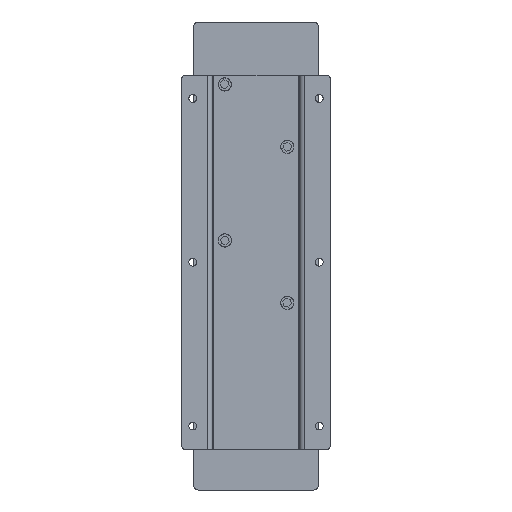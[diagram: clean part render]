
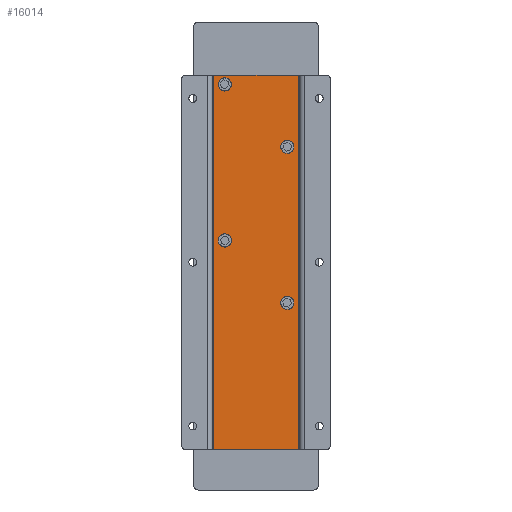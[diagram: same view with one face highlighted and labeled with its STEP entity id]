
A CAD part, left-side view. The second image highlights one B-rep face of the part: STEP entity #16014.
In plain terms, the highlighted planar face has unit normal (-1, 0, 0) as drawn and (0, 0, -1) by its records, which use the part's own axes.
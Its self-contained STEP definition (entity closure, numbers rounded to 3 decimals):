
#29 = CARTESIAN_POINT ( 'NONE',  ( 120., 27., -2. ) ) ;
#36 = ORIENTED_EDGE ( 'NONE', *, *, #26820, .T. ) ;
#107 = EDGE_CURVE ( 'NONE', #43931, #38310, #43694, .T. ) ;
#388 = DIRECTION ( 'NONE',  ( 1., 0., 0. ) ) ;
#463 = ORIENTED_EDGE ( 'NONE', *, *, #4341, .T. ) ;
#3179 = ORIENTED_EDGE ( 'NONE', *, *, #107, .F. ) ;
#3539 = DIRECTION ( 'NONE',  ( 1., 0., 0. ) ) ;
#3594 = CIRCLE ( 'NONE', #27992, 3.25 ) ;
#3679 = CARTESIAN_POINT ( 'NONE',  ( 22.75, -20., -2. ) ) ;
#3762 = DIRECTION ( 'NONE',  ( 0., 0., 1. ) ) ;
#4341 = EDGE_CURVE ( 'NONE', #43830, #41536, #41077, .T. ) ;
#4543 = ORIENTED_EDGE ( 'NONE', *, *, #12191, .F. ) ;
#4548 = CARTESIAN_POINT ( 'NONE',  ( 120., -27., -2. ) ) ;
#4644 = DIRECTION ( 'NONE',  ( -1., 0., 0. ) ) ;
#5745 = EDGE_LOOP ( 'NONE', ( #27785, #19962 ) ) ;
#5814 = VERTEX_POINT ( 'NONE', #3679 ) ;
#6073 = DIRECTION ( 'NONE',  ( 0., 0., 1. ) ) ;
#6528 = CARTESIAN_POINT ( 'NONE',  ( 26., -20., -2. ) ) ;
#6874 = ORIENTED_EDGE ( 'NONE', *, *, #19758, .T. ) ;
#7664 = CARTESIAN_POINT ( 'NONE',  ( -114., 20., -2. ) ) ;
#8265 = DIRECTION ( 'NONE',  ( 0., 0., 1. ) ) ;
#9116 = PLANE ( 'NONE',  #21159 ) ;
#10151 = EDGE_CURVE ( 'NONE', #23125, #32542, #11709, .T. ) ;
#10653 = CARTESIAN_POINT ( 'NONE',  ( -120., -27., -2. ) ) ;
#10688 = CARTESIAN_POINT ( 'NONE',  ( -117.25, 20., -2. ) ) ;
#11367 = ORIENTED_EDGE ( 'NONE', *, *, #10151, .T. ) ;
#11442 = DIRECTION ( 'NONE',  ( 1., 0., 0. ) ) ;
#11481 = DIRECTION ( 'NONE',  ( 0., 1., 0. ) ) ;
#11709 = CIRCLE ( 'NONE', #19819, 3.25 ) ;
#11711 = VERTEX_POINT ( 'NONE', #34325 ) ;
#12191 = EDGE_CURVE ( 'NONE', #16760, #13461, #44820, .T. ) ;
#12278 = EDGE_CURVE ( 'NONE', #38310, #16760, #16856, .T. ) ;
#12564 = CARTESIAN_POINT ( 'NONE',  ( -14., 20., -2. ) ) ;
#12767 = CARTESIAN_POINT ( 'NONE',  ( 29.25, -20., -2. ) ) ;
#13033 = DIRECTION ( 'NONE',  ( 1., 0., 0. ) ) ;
#13461 = VERTEX_POINT ( 'NONE', #26014 ) ;
#14198 = VERTEX_POINT ( 'NONE', #27942 ) ;
#14877 = DIRECTION ( 'NONE',  ( 0., 0., 1. ) ) ;
#16014 = ADVANCED_FACE ( 'NONE', ( #22541, #19754, #44465, #26944, #37554 ), #9116, .F. ) ;
#16760 = VERTEX_POINT ( 'NONE', #10653 ) ;
#16764 = CARTESIAN_POINT ( 'NONE',  ( -14., 20., -2. ) ) ;
#16856 = LINE ( 'NONE', #41807, #28177 ) ;
#17825 = CIRCLE ( 'NONE', #23739, 3.25 ) ;
#18241 = ORIENTED_EDGE ( 'NONE', *, *, #22923, .F. ) ;
#18310 = DIRECTION ( 'NONE',  ( 1., 0., 0. ) ) ;
#18552 = CIRCLE ( 'NONE', #20027, 3.25 ) ;
#18701 = ORIENTED_EDGE ( 'NONE', *, *, #18996, .T. ) ;
#18802 = CARTESIAN_POINT ( 'NONE',  ( -74., -20., -2. ) ) ;
#18996 = EDGE_CURVE ( 'NONE', #11711, #14198, #18552, .T. ) ;
#19754 = FACE_BOUND ( 'NONE', #25493, .T. ) ;
#19758 = EDGE_CURVE ( 'NONE', #32542, #23125, #17825, .T. ) ;
#19819 = AXIS2_PLACEMENT_3D ( 'NONE', #18802, #14877, #43280 ) ;
#19962 = ORIENTED_EDGE ( 'NONE', *, *, #30232, .T. ) ;
#20027 = AXIS2_PLACEMENT_3D ( 'NONE', #12564, #20388, #26908 ) ;
#20388 = DIRECTION ( 'NONE',  ( 0., 0., 1. ) ) ;
#21159 = AXIS2_PLACEMENT_3D ( 'NONE', #44020, #44243, #37328 ) ;
#21476 = ORIENTED_EDGE ( 'NONE', *, *, #12278, .F. ) ;
#21829 = CARTESIAN_POINT ( 'NONE',  ( -74., -20., -2. ) ) ;
#22221 = VECTOR ( 'NONE', #28196, 1000. ) ;
#22541 = FACE_BOUND ( 'NONE', #33537, .T. ) ;
#22923 = EDGE_CURVE ( 'NONE', #13461, #43931, #36222, .T. ) ;
#23125 = VERTEX_POINT ( 'NONE', #30870 ) ;
#23739 = AXIS2_PLACEMENT_3D ( 'NONE', #21829, #35931, #38952 ) ;
#25064 = EDGE_LOOP ( 'NONE', ( #36, #18701 ) ) ;
#25168 = CARTESIAN_POINT ( 'NONE',  ( 26., -20., -2. ) ) ;
#25493 = EDGE_LOOP ( 'NONE', ( #11367, #6874 ) ) ;
#26014 = CARTESIAN_POINT ( 'NONE',  ( 120., -27., -2. ) ) ;
#26820 = EDGE_CURVE ( 'NONE', #14198, #11711, #34572, .T. ) ;
#26863 = ORIENTED_EDGE ( 'NONE', *, *, #34658, .T. ) ;
#26908 = DIRECTION ( 'NONE',  ( 1., 0., 0. ) ) ;
#26944 = FACE_BOUND ( 'NONE', #5745, .T. ) ;
#27785 = ORIENTED_EDGE ( 'NONE', *, *, #35523, .T. ) ;
#27942 = CARTESIAN_POINT ( 'NONE',  ( -10.75, 20., -2. ) ) ;
#27971 = DIRECTION ( 'NONE',  ( 0., -1., 0. ) ) ;
#27992 = AXIS2_PLACEMENT_3D ( 'NONE', #25168, #8265, #388 ) ;
#28177 = VECTOR ( 'NONE', #27971, 1000. ) ;
#28196 = DIRECTION ( 'NONE',  ( 1., 0., 0. ) ) ;
#28400 = VECTOR ( 'NONE', #11481, 1000. ) ;
#28586 = CARTESIAN_POINT ( 'NONE',  ( -120., 27., -2. ) ) ;
#28787 = DIRECTION ( 'NONE',  ( 0., 0., 1. ) ) ;
#29547 = CIRCLE ( 'NONE', #42070, 3.25 ) ;
#30232 = EDGE_CURVE ( 'NONE', #5814, #36129, #29547, .T. ) ;
#30870 = CARTESIAN_POINT ( 'NONE',  ( -70.75, -20., -2. ) ) ;
#31622 = AXIS2_PLACEMENT_3D ( 'NONE', #16764, #3762, #3539 ) ;
#32326 = EDGE_LOOP ( 'NONE', ( #21476, #3179, #18241, #4543 ) ) ;
#32542 = VERTEX_POINT ( 'NONE', #37877 ) ;
#33537 = EDGE_LOOP ( 'NONE', ( #26863, #463 ) ) ;
#33828 = CIRCLE ( 'NONE', #43381, 3.25 ) ;
#34325 = CARTESIAN_POINT ( 'NONE',  ( -17.25, 20., -2. ) ) ;
#34572 = CIRCLE ( 'NONE', #31622, 3.25 ) ;
#34647 = VECTOR ( 'NONE', #4644, 1000. ) ;
#34658 = EDGE_CURVE ( 'NONE', #41536, #43830, #33828, .T. ) ;
#35421 = CARTESIAN_POINT ( 'NONE',  ( -110.75, 20., -2. ) ) ;
#35523 = EDGE_CURVE ( 'NONE', #36129, #5814, #3594, .T. ) ;
#35931 = DIRECTION ( 'NONE',  ( 0., 0., 1. ) ) ;
#36129 = VERTEX_POINT ( 'NONE', #12767 ) ;
#36222 = LINE ( 'NONE', #4548, #28400 ) ;
#36791 = CARTESIAN_POINT ( 'NONE',  ( 120., 27., -2. ) ) ;
#37328 = DIRECTION ( 'NONE',  ( 1., 0., 0. ) ) ;
#37554 = FACE_OUTER_BOUND ( 'NONE', #32326, .T. ) ;
#37877 = CARTESIAN_POINT ( 'NONE',  ( -77.25, -20., -2. ) ) ;
#38310 = VERTEX_POINT ( 'NONE', #28586 ) ;
#38594 = CARTESIAN_POINT ( 'NONE',  ( 120., -27., -2. ) ) ;
#38952 = DIRECTION ( 'NONE',  ( 1., 0., 0. ) ) ;
#39640 = CARTESIAN_POINT ( 'NONE',  ( -114., 20., -2. ) ) ;
#39815 = DIRECTION ( 'NONE',  ( 0., 0., 1. ) ) ;
#41077 = CIRCLE ( 'NONE', #44040, 3.25 ) ;
#41536 = VERTEX_POINT ( 'NONE', #35421 ) ;
#41807 = CARTESIAN_POINT ( 'NONE',  ( -120., -27., -2. ) ) ;
#42070 = AXIS2_PLACEMENT_3D ( 'NONE', #6528, #6073, #13033 ) ;
#43280 = DIRECTION ( 'NONE',  ( 1., 0., 0. ) ) ;
#43381 = AXIS2_PLACEMENT_3D ( 'NONE', #7664, #39815, #18310 ) ;
#43694 = LINE ( 'NONE', #36791, #34647 ) ;
#43830 = VERTEX_POINT ( 'NONE', #10688 ) ;
#43931 = VERTEX_POINT ( 'NONE', #29 ) ;
#44020 = CARTESIAN_POINT ( 'NONE',  ( 0., 0., -2. ) ) ;
#44040 = AXIS2_PLACEMENT_3D ( 'NONE', #39640, #28787, #11442 ) ;
#44243 = DIRECTION ( 'NONE',  ( 0., 0., 1. ) ) ;
#44465 = FACE_BOUND ( 'NONE', #25064, .T. ) ;
#44820 = LINE ( 'NONE', #38594, #22221 ) ;
